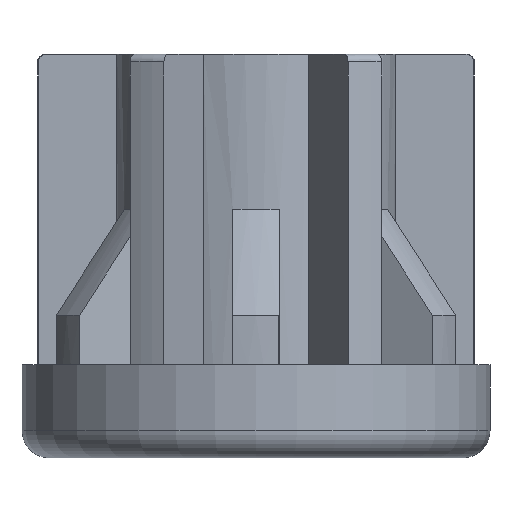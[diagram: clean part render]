
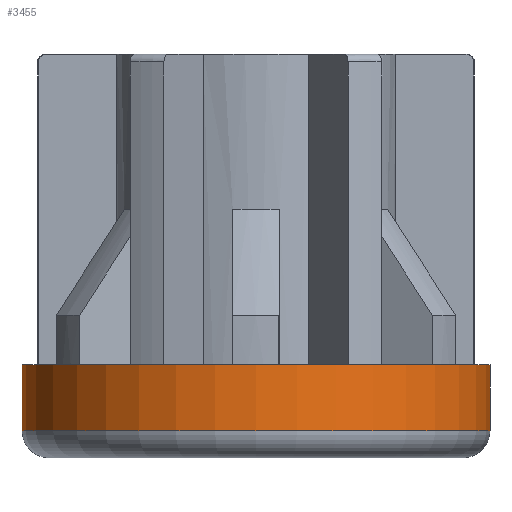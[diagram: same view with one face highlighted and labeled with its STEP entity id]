
A CAD part, front view. The second image highlights one B-rep face of the part: STEP entity #3455.
In plain terms, the highlighted cylindrical face has radius 30.15 mm (diameter 60.3 mm), a partial arc.
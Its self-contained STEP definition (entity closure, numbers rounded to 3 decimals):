
#68 = VECTOR ( 'NONE', #3700, 1000. ) ;
#90 = ORIENTED_EDGE ( 'NONE', *, *, #1312, .T. ) ;
#165 = CIRCLE ( 'NONE', #1994, 30.15 ) ;
#229 = LINE ( 'NONE', #718, #1079 ) ;
#237 = DIRECTION ( 'NONE',  ( 0., 0., 1. ) ) ;
#297 = VERTEX_POINT ( 'NONE', #2109 ) ;
#339 = DIRECTION ( 'NONE',  ( -1., 0., 0. ) ) ;
#463 = AXIS2_PLACEMENT_3D ( 'NONE', #4096, #237, #900 ) ;
#718 = CARTESIAN_POINT ( 'NONE',  ( 30.15, 0., 11.25 ) ) ;
#900 = DIRECTION ( 'NONE',  ( -1., 0., 0. ) ) ;
#1079 = VECTOR ( 'NONE', #3938, 1000. ) ;
#1145 = EDGE_CURVE ( 'NONE', #297, #1951, #165, .T. ) ;
#1180 = LINE ( 'NONE', #1805, #68 ) ;
#1254 = AXIS2_PLACEMENT_3D ( 'NONE', #1952, #2285, #339 ) ;
#1312 = EDGE_CURVE ( 'NONE', #2453, #1951, #1180, .T. ) ;
#1421 = DIRECTION ( 'NONE',  ( 0., 0., -1. ) ) ;
#1515 = EDGE_LOOP ( 'NONE', ( #90, #3570, #3190, #3153 ) ) ;
#1728 = CIRCLE ( 'NONE', #1254, 30.15 ) ;
#1729 = EDGE_CURVE ( 'NONE', #297, #3446, #229, .T. ) ;
#1805 = CARTESIAN_POINT ( 'NONE',  ( -30.15, 0., 11.25 ) ) ;
#1951 = VERTEX_POINT ( 'NONE', #2290 ) ;
#1952 = CARTESIAN_POINT ( 'NONE',  ( 0., 0., 11.25 ) ) ;
#1994 = AXIS2_PLACEMENT_3D ( 'NONE', #2387, #1421, #2402 ) ;
#2109 = CARTESIAN_POINT ( 'NONE',  ( 30.15, 0., 2.75 ) ) ;
#2201 = CYLINDRICAL_SURFACE ( 'NONE', #463, 30.15 ) ;
#2285 = DIRECTION ( 'NONE',  ( 0., 0., -1. ) ) ;
#2290 = CARTESIAN_POINT ( 'NONE',  ( -30.15, 0., 2.75 ) ) ;
#2387 = CARTESIAN_POINT ( 'NONE',  ( 0., 0., 2.75 ) ) ;
#2402 = DIRECTION ( 'NONE',  ( -1., 0., 0. ) ) ;
#2410 = EDGE_CURVE ( 'NONE', #3446, #2453, #1728, .T. ) ;
#2453 = VERTEX_POINT ( 'NONE', #3055 ) ;
#2812 = CARTESIAN_POINT ( 'NONE',  ( 30.15, 0., 11.25 ) ) ;
#3055 = CARTESIAN_POINT ( 'NONE',  ( -30.15, 0., 11.25 ) ) ;
#3152 = FACE_OUTER_BOUND ( 'NONE', #1515, .T. ) ;
#3153 = ORIENTED_EDGE ( 'NONE', *, *, #2410, .T. ) ;
#3190 = ORIENTED_EDGE ( 'NONE', *, *, #1729, .T. ) ;
#3446 = VERTEX_POINT ( 'NONE', #2812 ) ;
#3455 = ADVANCED_FACE ( 'NONE', ( #3152 ), #2201, .T. ) ;
#3570 = ORIENTED_EDGE ( 'NONE', *, *, #1145, .F. ) ;
#3700 = DIRECTION ( 'NONE',  ( 0., 0., -1. ) ) ;
#3938 = DIRECTION ( 'NONE',  ( 0., 0., 1. ) ) ;
#4096 = CARTESIAN_POINT ( 'NONE',  ( 0., 0., 11.25 ) ) ;
